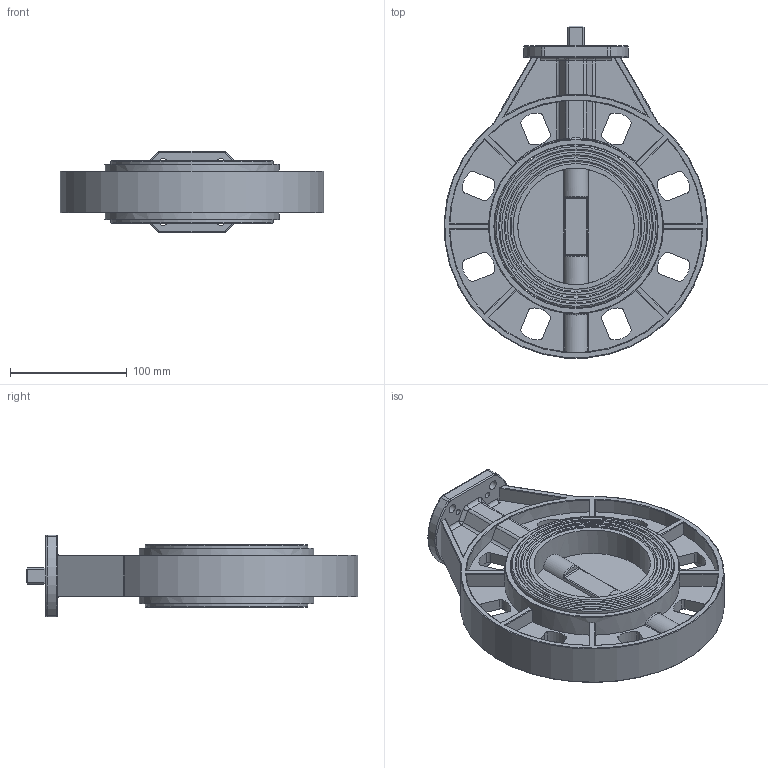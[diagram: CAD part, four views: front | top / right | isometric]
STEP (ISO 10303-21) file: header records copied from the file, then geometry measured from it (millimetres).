
FILE_DESCRIPTION(('STEP AP242'), '1');
FILE_NAME('WBV4242E-2W-Fb-ISO 青蜮铕 滂耜钼 DN.ru 捏100 畜10', '', ('UNSPECIFIED'), ('UNSPECIFIED'), 'C3D Converter', 'C3D Toolkit', '');
FILE_SCHEMA(('AP242_MANAGED_MODEL_BASED_3D_ENGINEERING_MIM_LF { 1 0 10303 442 1 1 4 }'));
Length unit declared in the file: millimetre
Products named in the file (1): WBV4242E-2W-Fb-ISO
Bounding box: 226.32 x 284.84 x 70 mm (x, y, z)
Volume: 1015095.3 mm3; surface area: 237466.6 mm2
Topology: 1 solids, 1 shells, 434 faces, 1118 edges, 706 vertices
Faces by surface type: cylinder 167, plane 143, torus 75, bspline 22, cone 21, sphere 6
Full cylindrical faces by diameter (mm): 5 x4, 8 x4, 22 x2, 34.6 x1, 35 x1, 100 x2, 139.2 x1, 140 x1, 150 x2
Entity records: 27904 total; most frequent: CARTESIAN_POINT 14051, ORIENTED_EDGE 2144, DIRECTION 2094, EDGE_CURVE 1072, AXIS2_PLACEMENT_3D 840, VERTEX_POINT 704, EDGE_LOOP 534, FACE_BOUND 476
